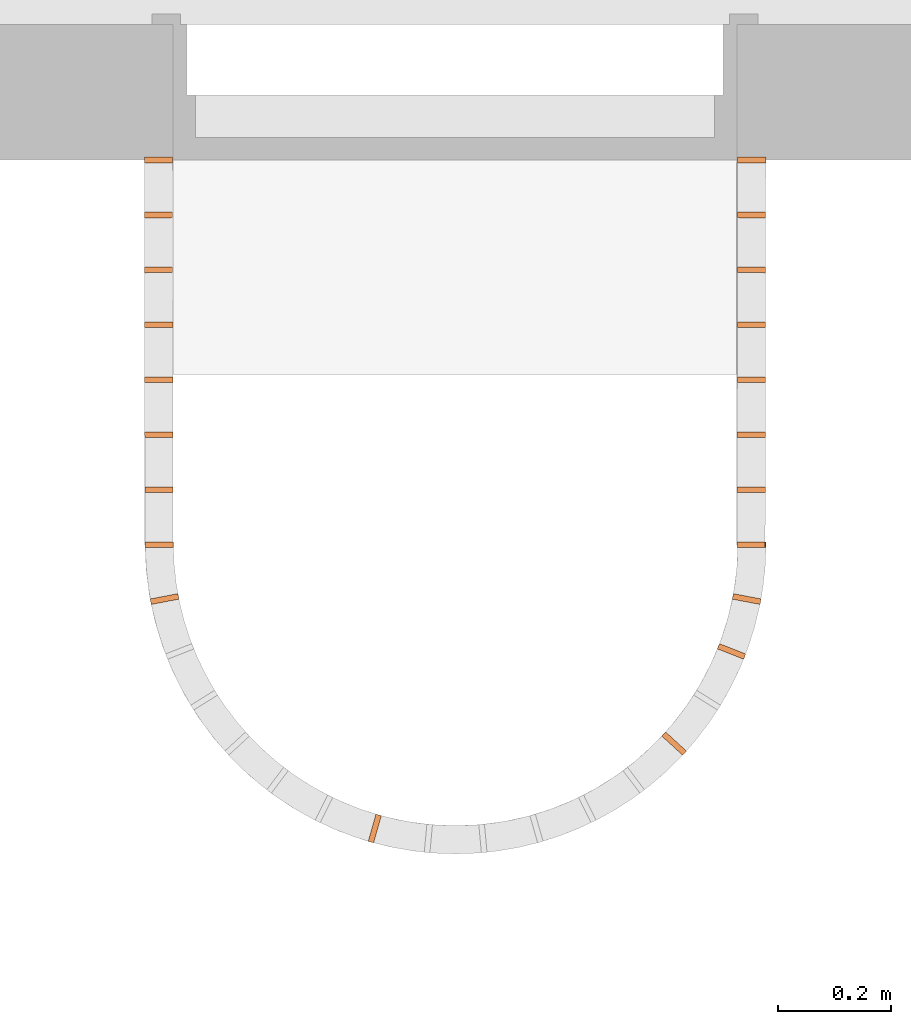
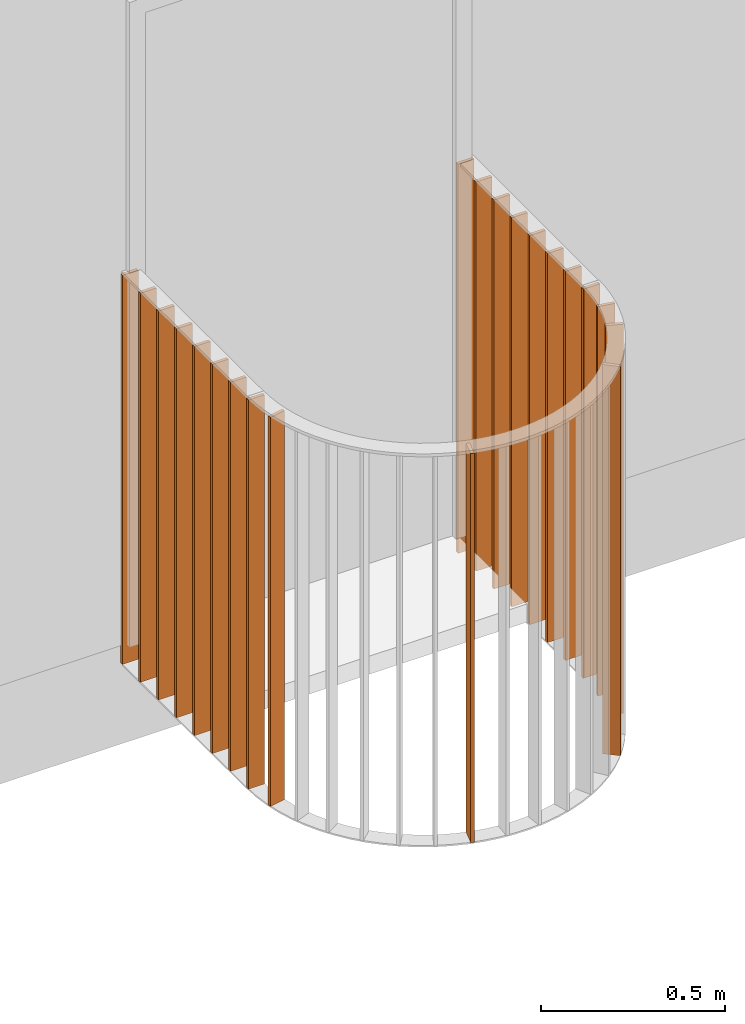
# One storey, part 73 of 100: 23 proxies, 3 elements without a shape of their own.
"""IFC2X3 building model written with IfcOpenShell, lengths in millimetres."""

from ifc_helpers import new_model, entity, si_unit, converted_unit, derived_unit, money_unit, direction, frame, origin_with_axes, place, context, subcontext, project, spatial, faceted_brep, source, transform, mapped, material, type_object, element, aggregate, save


model = new_model("IFC2X3")

# Units and contexts
model_context = context("Model", 3, precision=0.01, world=origin_with_axes(), true_north=direction((0.0, 1.0)))
body_context = subcontext(model_context, "Body", "Model", "MODEL_VIEW")
ifc_project = project(units=[si_unit("LENGTHUNIT", "METRE", prefix="MILLI"), si_unit("AREAUNIT", "SQUARE_METRE"), si_unit("VOLUMEUNIT", "CUBIC_METRE"), converted_unit("PLANEANGLEUNIT", "DEGREE", entity("IfcPlaneAngleMeasure", 0.0174532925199), si_unit("PLANEANGLEUNIT", "RADIAN"), dimensions=[0, 0, 0, 0, 0, 0, 0]), si_unit("SOLIDANGLEUNIT", "STERADIAN"), money_unit("EUR"), converted_unit("TIMEUNIT", "Year", entity("IfcTimeMeasure", 31556926.0), si_unit("TIMEUNIT", "SECOND"), dimensions=[0, 0, 1, 0, 0, 0, 0]), si_unit("MASSUNIT", "GRAM", prefix="KILO"), si_unit("THERMODYNAMICTEMPERATUREUNIT", "DEGREE_CELSIUS"), si_unit("LUMINOUSINTENSITYUNIT", "LUMEN"), si_unit("ENERGYUNIT", "JOULE", prefix="MEGA"), derived_unit("THERMALCONDUCTANCEUNIT", [(si_unit("POWERUNIT", "WATT"), 1), (si_unit("LENGTHUNIT", "METRE"), -1), (si_unit("THERMODYNAMICTEMPERATUREUNIT", "KELVIN"), -1)]), derived_unit("SPECIFICHEATCAPACITYUNIT", [(si_unit("ENERGYUNIT", "JOULE"), 1), (si_unit("MASSUNIT", "GRAM", prefix="KILO"), -1), (si_unit("THERMODYNAMICTEMPERATUREUNIT", "KELVIN"), -1)]), derived_unit("MASSDENSITYUNIT", [(si_unit("MASSUNIT", "GRAM", prefix="KILO"), 1), (si_unit("VOLUMEUNIT", "CUBIC_METRE"), -1)])], contexts=[model_context])

# Site, building, storey
site_placement = place(None, origin_with_axes())
site = spatial("IfcSite", under=ifc_project, at=site_placement, Name="Politse- ja Piirivalveameti ning Päästeameti ühishoone", CompositionType="ELEMENT")
building_placement = place(site_placement, origin_with_axes())
building = spatial("IfcBuilding", under=site, at=building_placement, Name="Politse- ja Piirivalveameti ning Päästeameti ühishoone", CompositionType="ELEMENT")
storey_placement = place(building_placement, frame((0.0, 0.0, 3800.0), z_axis=(0.0, 0.0, 1.0), x_axis=(1.0, 0.0, 0.0)))
storey = spatial("IfcBuildingStorey", under=building, at=storey_placement, Name="Teine korrus", CompositionType="ELEMENT", Elevation=3800.0)

# Railing, proxies
railing_type = type_object("IfcRailingType", Name="Railing Type", PredefinedType="NOTDEFINED")
railing_1_placement = place(storey_placement, frame((49861.2823159, 14185.7710053, -60.5112710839), z_axis=(0.0, 0.0, 1.0), x_axis=(-1.0, 0.0, 0.0)))
railing_1 = element("IfcRailing", 1, at=railing_1_placement, inside=storey, type_object=railing_type, Name="PIIRE 11", PredefinedType="NOTDEFINED")
ifc_material = material(Name="Teras - Konstruktsioon")
building_element_proxy_type = type_object("IfcBuildingElementProxyType", Name="IfcBuildingElementProxy", PredefinedType="NOTDEFINED")
shared_shape_1 = source(origin_with_axes(), body_context, "Body", "Brep", [
    faceted_brep([(25.0, 5.0, 0.0), (-25.0, 5.0, 0.0), (-25.0, 4.99999999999, 1290.0), (25.0, 4.99999999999, 1290.0), (25.0, -5.0, 0.0), (-25.0, -5.0, 0.0), (-25.0, -5.00000000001, 1290.0), (25.0, -5.00000000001, 1290.0)], [[[0, 1, 2, 3]], [[0, 4, 5, 1]], [[1, 5, 6, 2]], [[3, 2, 6, 7]], [[4, 0, 3, 7]], [[5, 4, 7, 6]]]),
])
proxy_1_placement = place(railing_1_placement, frame((24.9999739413, 1425.78724043, 0.0), z_axis=(0.0, 0.0, 1.0), x_axis=(-1.0, 0.0, 0.0)))
proxy_1 = element("IfcBuildingElementProxy", 2, at=proxy_1_placement, type_object=building_element_proxy_type, material=ifc_material, Name="PIIRDE POST - 001", context=body_context, shape_type="MappedRepresentation", body=[
    mapped(shared_shape_1, transform((0.0, 0.0, 0.0), x_axis=(-0.999998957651, -0.00144384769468, 0.0), y_axis=(0.00144384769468, -0.999998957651, 0.0), z_axis=(0.0, 0.0, 1.0))),
])
proxy_2_placement = place(railing_1_placement, frame((24.0148543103, 2108.0743042, 0.0), z_axis=(0.0, 0.0, 1.0), x_axis=(-1.0, 0.0, 0.0)))
proxy_2 = element("IfcBuildingElementProxy", 3, at=proxy_2_placement, type_object=building_element_proxy_type, material=ifc_material, Name="PIIRDE POST - 001", context=body_context, shape_type="MappedRepresentation", body=[
    mapped(shared_shape_1, transform((0.0, 0.0, 0.0), x_axis=(-0.999998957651, -0.00144384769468, 0.0), y_axis=(0.00144384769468, -0.999998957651, 0.0), z_axis=(0.0, 0.0, 1.0))),
])

railing_2_placement = place(storey_placement, frame((50863.2525551, 14185.7710053, -60.5112732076), z_axis=(0.0, 0.0, 1.0), x_axis=(1.0, 0.0, 0.0)))
railing_2 = element("IfcRailing", 4, at=railing_2_placement, inside=storey, type_object=railing_type, Name="PIIRE 12", PredefinedType="NOTDEFINED")
proxy_3_placement = place(railing_2_placement, frame((24.9999739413, -1425.78724043, 0.0), z_axis=(0.0, 0.0, 1.0), x_axis=(1.0, 0.0, 0.0)))
proxy_3 = element("IfcBuildingElementProxy", 5, at=proxy_3_placement, type_object=building_element_proxy_type, material=ifc_material, Name="PIIRDE POST - 001", context=body_context, shape_type="MappedRepresentation", body=[
    mapped(shared_shape_1, transform((0.0, 0.0, 0.0), x_axis=(-0.999998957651, 0.00144384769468, 0.0), y_axis=(-0.00144384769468, -0.999998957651, 0.0), z_axis=(0.0, 0.0, 1.0))),
])
proxy_4_placement = place(railing_2_placement, frame((24.0148543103, -2108.0743042, 0.0), z_axis=(0.0, 0.0, 1.0), x_axis=(1.0, 0.0, 0.0)))
proxy_4 = element("IfcBuildingElementProxy", 6, at=proxy_4_placement, type_object=building_element_proxy_type, material=ifc_material, Name="PIIRDE POST - 001", context=body_context, shape_type="MappedRepresentation", body=[
    mapped(shared_shape_1, transform((0.0, 0.0, 0.0), x_axis=(-0.999998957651, 0.00144384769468, 0.0), y_axis=(-0.00144384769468, -0.999998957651, 0.0), z_axis=(0.0, 0.0, 1.0))),
])

railing_3_placement = place(storey_placement, frame((50863.781002, 13503.4839416, -60.5112732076), z_axis=(0.0, 0.0, 1.0), x_axis=(1.0, 0.0, 0.0)))
railing_3 = element("IfcRailing", 7, at=railing_3_placement, inside=storey, type_object=railing_type, Name="PIIRE 13", PredefinedType="NOTDEFINED")
proxy_5_placement = place(railing_3_placement, frame((24.9997402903, -1425.86509781, 0.0), z_axis=(0.0, 0.0, 1.0), x_axis=(1.0, 0.0, 0.0)))
proxy_5 = element("IfcBuildingElementProxy", 8, at=proxy_5_placement, type_object=building_element_proxy_type, material=ifc_material, Name="PIIRDE POST - 001", context=body_context, shape_type="MappedRepresentation", body=[
    mapped(shared_shape_1, transform((0.0, 0.0, 0.0), x_axis=(-0.999989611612, 0.00455814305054, 0.0), y_axis=(-0.00455814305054, -0.999989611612, 0.0), z_axis=(0.0, 0.0, 1.0))),
])
proxy_6_placement = place(railing_3_placement, frame((-1025.98485992, -1425.86509781, 0.0), z_axis=(0.0, 0.0, 1.0), x_axis=(1.0, 0.0, 0.0)))
proxy_6 = element("IfcBuildingElementProxy", 9, at=proxy_6_placement, type_object=building_element_proxy_type, material=ifc_material, Name="PIIRDE POST - 001", context=body_context, shape_type="MappedRepresentation", body=[
    mapped(shared_shape_1, transform((0.0, 0.0, 0.0), x_axis=(0.999989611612, 0.00455814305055, 0.0), y_axis=(-0.00455814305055, 0.999989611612, 0.0), z_axis=(0.0, 0.0, 1.0))),
])

# Proxy
shared_shape_2 = source(origin_with_axes(), body_context, "Body", "Brep", [
    faceted_brep([(25.0, 5.0, 0.0), (-25.0, 5.0, 0.0), (-25.0, 4.99999999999, 1290.00001255), (25.0, 4.99999999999, 1290.00001255), (25.0, -5.0, 0.0), (-25.0, -5.0, 0.0), (-25.0, -5.00000000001, 1290.00001255), (25.0, -5.00000000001, 1290.00001255)], [[[0, 1, 2, 3]], [[0, 4, 5, 1]], [[1, 5, 6, 2]], [[3, 2, 6, 7]], [[4, 0, 3, 7]], [[5, 4, 7, 6]]]),
])
proxy_7_placement = place(railing_1_placement, frame((24.8592425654, 1523.25682096, -1.25517001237e-05), z_axis=(0.0, 0.0, 1.0), x_axis=(-1.0, 0.0, 0.0)))
proxy_7 = element("IfcBuildingElementProxy", 10, at=proxy_7_placement, type_object=building_element_proxy_type, material=ifc_material, Name="BALUSTER - 001", context=body_context, shape_type="MappedRepresentation", body=[
    mapped(shared_shape_2, transform((0.0, 0.0, 0.0), x_axis=(-0.999998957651, -0.00144384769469, 0.0), y_axis=(0.00144384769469, -0.999998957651, 0.0), z_axis=(0.0, 0.0, 1.0))),
])

proxy_8_placement = place(railing_1_placement, frame((24.7185111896, 1620.7264015, -1.25517001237e-05), z_axis=(0.0, 0.0, 1.0), x_axis=(-1.0, 0.0, 0.0)))
proxy_8 = element("IfcBuildingElementProxy", 11, at=proxy_8_placement, type_object=building_element_proxy_type, material=ifc_material, Name="BALUSTER - 001", context=body_context, shape_type="MappedRepresentation", body=[
    mapped(shared_shape_2, transform((0.0, 0.0, 0.0), x_axis=(-0.999998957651, -0.00144384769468, 0.0), y_axis=(0.00144384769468, -0.999998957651, 0.0), z_axis=(0.0, 0.0, 1.0))),
])

proxy_9_placement = place(railing_1_placement, frame((24.5777798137, 1718.19598204, -1.25517001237e-05), z_axis=(0.0, 0.0, 1.0), x_axis=(-1.0, 0.0, 0.0)))
proxy_9 = element("IfcBuildingElementProxy", 12, at=proxy_9_placement, type_object=building_element_proxy_type, material=ifc_material, Name="BALUSTER - 001", context=body_context, shape_type="MappedRepresentation", body=[
    mapped(shared_shape_2, transform((0.0, 0.0, 0.0), x_axis=(-0.999998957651, -0.00144384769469, 0.0), y_axis=(0.00144384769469, -0.999998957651, 0.0), z_axis=(0.0, 0.0, 1.0))),
])

proxy_10_placement = place(railing_1_placement, frame((24.4370484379, 1815.66556258, -1.25517001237e-05), z_axis=(0.0, 0.0, 1.0), x_axis=(-1.0, 0.0, 0.0)))
proxy_10 = element("IfcBuildingElementProxy", 13, at=proxy_10_placement, type_object=building_element_proxy_type, material=ifc_material, Name="BALUSTER - 001", context=body_context, shape_type="MappedRepresentation", body=[
    mapped(shared_shape_2, transform((0.0, 0.0, 0.0), x_axis=(-0.999998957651, -0.00144384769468, 0.0), y_axis=(0.00144384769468, -0.999998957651, 0.0), z_axis=(0.0, 0.0, 1.0))),
])

proxy_11_placement = place(railing_1_placement, frame((24.296317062, 1913.13514312, -1.25517001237e-05), z_axis=(0.0, 0.0, 1.0), x_axis=(-1.0, 0.0, 0.0)))
proxy_11 = element("IfcBuildingElementProxy", 14, at=proxy_11_placement, type_object=building_element_proxy_type, material=ifc_material, Name="BALUSTER - 001", context=body_context, shape_type="MappedRepresentation", body=[
    mapped(shared_shape_2, transform((0.0, 0.0, 0.0), x_axis=(-0.999998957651, -0.00144384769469, 0.0), y_axis=(0.00144384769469, -0.999998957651, 0.0), z_axis=(0.0, 0.0, 1.0))),
])

proxy_12_placement = place(railing_1_placement, frame((24.1555856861, 2010.60472366, -1.25517001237e-05), z_axis=(0.0, 0.0, 1.0), x_axis=(-1.0, 0.0, 0.0)))
proxy_12 = element("IfcBuildingElementProxy", 15, at=proxy_12_placement, type_object=building_element_proxy_type, material=ifc_material, Name="BALUSTER - 001", context=body_context, shape_type="MappedRepresentation", body=[
    mapped(shared_shape_2, transform((0.0, 0.0, 0.0), x_axis=(-0.999998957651, -0.00144384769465, 0.0), y_axis=(0.00144384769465, -0.999998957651, 0.0), z_axis=(0.0, 0.0, 1.0))),
])

aggregate(railing_1, [proxy_1, proxy_2, proxy_7, proxy_8, proxy_9, proxy_10, proxy_11, proxy_12])

proxy_13_placement = place(railing_2_placement, frame((24.8592425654, -1523.25682096, -1.25516996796e-05), z_axis=(0.0, 0.0, 1.0), x_axis=(1.0, 0.0, 0.0)))
proxy_13 = element("IfcBuildingElementProxy", 16, at=proxy_13_placement, type_object=building_element_proxy_type, material=ifc_material, Name="BALUSTER - 001", context=body_context, shape_type="MappedRepresentation", body=[
    mapped(shared_shape_2, transform((0.0, 0.0, 0.0), x_axis=(-0.999998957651, 0.00144384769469, 0.0), y_axis=(-0.00144384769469, -0.999998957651, 0.0), z_axis=(0.0, 0.0, 1.0))),
])

proxy_14_placement = place(railing_2_placement, frame((24.7185111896, -1620.7264015, -1.25516996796e-05), z_axis=(0.0, 0.0, 1.0), x_axis=(1.0, 0.0, 0.0)))
proxy_14 = element("IfcBuildingElementProxy", 17, at=proxy_14_placement, type_object=building_element_proxy_type, material=ifc_material, Name="BALUSTER - 001", context=body_context, shape_type="MappedRepresentation", body=[
    mapped(shared_shape_2, transform((0.0, 0.0, 0.0), x_axis=(-0.999998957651, 0.00144384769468, 0.0), y_axis=(-0.00144384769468, -0.999998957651, 0.0), z_axis=(0.0, 0.0, 1.0))),
])

proxy_15_placement = place(railing_2_placement, frame((24.5777798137, -1718.19598204, -1.25516996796e-05), z_axis=(0.0, 0.0, 1.0), x_axis=(1.0, 0.0, 0.0)))
proxy_15 = element("IfcBuildingElementProxy", 18, at=proxy_15_placement, type_object=building_element_proxy_type, material=ifc_material, Name="BALUSTER - 001", context=body_context, shape_type="MappedRepresentation", body=[
    mapped(shared_shape_2, transform((0.0, 0.0, 0.0), x_axis=(-0.999998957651, 0.00144384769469, 0.0), y_axis=(-0.00144384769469, -0.999998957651, 0.0), z_axis=(0.0, 0.0, 1.0))),
])

proxy_16_placement = place(railing_2_placement, frame((24.4370484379, -1815.66556258, -1.25516996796e-05), z_axis=(0.0, 0.0, 1.0), x_axis=(1.0, 0.0, 0.0)))
proxy_16 = element("IfcBuildingElementProxy", 19, at=proxy_16_placement, type_object=building_element_proxy_type, material=ifc_material, Name="BALUSTER - 001", context=body_context, shape_type="MappedRepresentation", body=[
    mapped(shared_shape_2, transform((0.0, 0.0, 0.0), x_axis=(-0.999998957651, 0.00144384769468, 0.0), y_axis=(-0.00144384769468, -0.999998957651, 0.0), z_axis=(0.0, 0.0, 1.0))),
])

proxy_17_placement = place(railing_2_placement, frame((24.296317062, -1913.13514312, -1.25516996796e-05), z_axis=(0.0, 0.0, 1.0), x_axis=(1.0, 0.0, 0.0)))
proxy_17 = element("IfcBuildingElementProxy", 20, at=proxy_17_placement, type_object=building_element_proxy_type, material=ifc_material, Name="BALUSTER - 001", context=body_context, shape_type="MappedRepresentation", body=[
    mapped(shared_shape_2, transform((0.0, 0.0, 0.0), x_axis=(-0.999998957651, 0.00144384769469, 0.0), y_axis=(-0.00144384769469, -0.999998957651, 0.0), z_axis=(0.0, 0.0, 1.0))),
])

proxy_18_placement = place(railing_2_placement, frame((24.1555856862, -2010.60472366, -1.25516996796e-05), z_axis=(0.0, 0.0, 1.0), x_axis=(1.0, 0.0, 0.0)))
proxy_18 = element("IfcBuildingElementProxy", 21, at=proxy_18_placement, type_object=building_element_proxy_type, material=ifc_material, Name="BALUSTER - 001", context=body_context, shape_type="MappedRepresentation", body=[
    mapped(shared_shape_2, transform((0.0, 0.0, 0.0), x_axis=(-0.999998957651, 0.00144384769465, 0.0), y_axis=(-0.00144384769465, -0.999998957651, 0.0), z_axis=(0.0, 0.0, 1.0))),
])

aggregate(railing_2, [proxy_3, proxy_4, proxy_13, proxy_14, proxy_15, proxy_16, proxy_17, proxy_18])

proxy_19_placement = place(railing_3_placement, frame((-1016.65018933, -1522.10649275, -1.25516996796e-05), z_axis=(0.0, 0.0, 1.0), x_axis=(1.0, 0.0, 0.0)))
proxy_19 = element("IfcBuildingElementProxy", 22, at=proxy_19_placement, type_object=building_element_proxy_type, material=ifc_material, Name="BALUSTER - 001", context=body_context, shape_type="MappedRepresentation", body=[
    mapped(shared_shape_2, transform((0.0, 0.0, 0.0), x_axis=(0.982226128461, 0.187701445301, 0.0), y_axis=(-0.187701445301, 0.982226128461, 0.0), z_axis=(0.0, 0.0, 1.0))),
])

shared_shape_3 = source(origin_with_axes(), body_context, "Body", "Brep", [
    faceted_brep([(25.0, 5.0, 0.0), (-25.0, 5.0, 0.0), (-25.0, 5.0, 1290.00001255), (25.0, 5.0, 1290.00001255), (25.0, -5.0, 0.0), (-25.0, -5.0, 0.0), (-25.0, -5.0, 1290.00001255), (25.0, -5.0, 1290.00001255)], [[[0, 1, 2, 3]], [[0, 4, 5, 1]], [[1, 5, 6, 2]], [[3, 2, 6, 7]], [[4, 0, 3, 7]], [[5, 4, 7, 6]]]),
])
proxy_20_placement = place(railing_3_placement, frame((15.6650696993, -1522.10649275, -1.25516996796e-05), z_axis=(0.0, 0.0, 1.0), x_axis=(1.0, 0.0, 0.0)))
proxy_20 = element("IfcBuildingElementProxy", 23, at=proxy_20_placement, type_object=building_element_proxy_type, material=ifc_material, Name="BALUSTER - 001", context=body_context, shape_type="MappedRepresentation", body=[
    mapped(shared_shape_3, transform((0.0, 0.0, 0.0), x_axis=(-0.982226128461, 0.187701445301, 0.0), y_axis=(-0.187701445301, -0.982226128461, 0.0), z_axis=(0.0, 0.0, 1.0))),
])

proxy_21_placement = place(railing_3_placement, frame((-11.1451551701, -1615.00834428, -1.25516996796e-05), z_axis=(0.0, 0.0, 1.0), x_axis=(1.0, 0.0, 0.0)))
proxy_21 = element("IfcBuildingElementProxy", 24, at=proxy_21_placement, type_object=building_element_proxy_type, material=ifc_material, Name="BALUSTER - 001", context=body_context, shape_type="MappedRepresentation", body=[
    mapped(shared_shape_3, transform((0.0, 0.0, 0.0), x_axis=(-0.931207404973, 0.364489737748, 0.0), y_axis=(-0.364489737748, -0.931207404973, 0.0), z_axis=(0.0, 0.0, 1.0))),
])

shared_shape_4 = source(origin_with_axes(), body_context, "Body", "Brep", [
    faceted_brep([(25.0, 5.0, 0.0), (-25.0, 5.0, 0.0), (-25.0, 4.99999999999, 1290.00001255), (25.0, 4.99999999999, 1290.00001255), (25.0, -5.0, 0.0), (-25.0, -5.0, 0.0), (-25.0, -5.00000000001, 1290.00001255), (25.0, -5.00000000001, 1290.00001255)], [[[0, 1, 2, 3]], [[0, 4, 5, 1]], [[1, 5, 6, 2]], [[3, 2, 6, 7]], [[4, 0, 3, 7]], [[5, 4, 7, 6]]]),
])
proxy_22_placement = place(railing_3_placement, frame((-113.000473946, -1778.43146135, -1.25516996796e-05), z_axis=(0.0, 0.0, 1.0), x_axis=(1.0, 0.0, 0.0)))
proxy_22 = element("IfcBuildingElementProxy", 25, at=proxy_22_placement, type_object=building_element_proxy_type, material=ifc_material, Name="BALUSTER - 001", context=body_context, shape_type="MappedRepresentation", body=[
    mapped(shared_shape_4, transform((0.0, 0.0, 0.0), x_axis=(-0.737381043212, 0.675477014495, 0.0), y_axis=(-0.675477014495, -0.737381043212, 0.0), z_axis=(0.0, 0.0, 1.0))),
])

shared_shape_5 = source(origin_with_axes(), body_context, "Body", "Brep", [
    faceted_brep([(25.0, 5.0, 0.0), (-25.0, 5.0, 0.0), (-25.0, 4.99999999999, 1290.00001255), (25.0, 4.99999999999, 1290.00001255), (25.0, -5.0, 0.0), (-25.0, -5.0, 0.0), (-25.0, -5.00000000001, 1290.00001255), (25.0, -5.00000000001, 1290.00001255)], [[[0, 1, 2, 3]], [[0, 4, 5, 1]], [[1, 5, 6, 2]], [[3, 2, 6, 7]], [[4, 0, 3, 7]], [[5, 4, 7, 6]]]),
])
proxy_23_placement = place(railing_3_placement, frame((-643.895237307, -1929.02253799, -1.25516996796e-05), z_axis=(0.0, 0.0, 1.0), x_axis=(1.0, 0.0, 0.0)))
proxy_23 = element("IfcBuildingElementProxy", 26, at=proxy_23_placement, type_object=building_element_proxy_type, material=ifc_material, Name="BALUSTER - 001", context=body_context, shape_type="MappedRepresentation", body=[
    mapped(shared_shape_5, transform((0.0, 0.0, 0.0), x_axis=(0.272889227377, 0.962045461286, 0.0), y_axis=(-0.962045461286, 0.272889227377, 0.0), z_axis=(0.0, 0.0, 1.0))),
])

aggregate(railing_3, [proxy_5, proxy_6, proxy_20, proxy_21, proxy_22, proxy_23, proxy_19])

save(model, "model.ifc")
